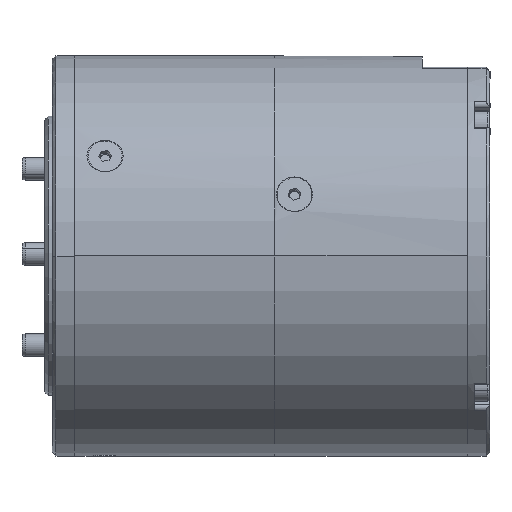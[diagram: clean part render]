
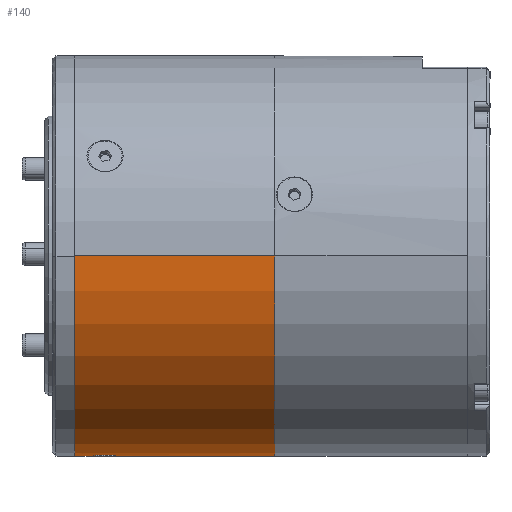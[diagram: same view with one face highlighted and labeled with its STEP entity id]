
A CAD part, front view. The second image highlights one B-rep face of the part: STEP entity #140.
In plain terms, the highlighted cylindrical face has radius 26.5 mm (diameter 53 mm), a partial arc.
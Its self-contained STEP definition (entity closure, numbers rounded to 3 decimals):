
#140 = ADVANCED_FACE ( 'NONE', ( #4600, #30402 ), #25594, .T. ) ;
#522 = EDGE_CURVE ( 'NONE', #60529, #40972, #10632, .T. ) ;
#2503 = ORIENTED_EDGE ( 'NONE', *, *, #46251, .T. ) ;
#2834 = CARTESIAN_POINT ( 'NONE',  ( 20.826, 1.758, -26.442 ) ) ;
#4600 = FACE_BOUND ( 'NONE', #13719, .T. ) ;
#4914 = CARTESIAN_POINT ( 'NONE',  ( 24.104, 1.424, -26.462 ) ) ;
#5244 = CARTESIAN_POINT ( 'NONE',  ( 23.315, 2.097, -26.417 ) ) ;
#5882 = CARTESIAN_POINT ( 'NONE',  ( 44.815, 26.5, 0. ) ) ;
#6338 = DIRECTION ( 'NONE',  ( 0., -1., 0. ) ) ;
#6491 = CARTESIAN_POINT ( 'NONE',  ( 18.315, -26.5, 0. ) ) ;
#6952 = ORIENTED_EDGE ( 'NONE', *, *, #66155, .F. ) ;
#7880 = EDGE_LOOP ( 'NONE', ( #50403, #2503, #6952, #54924 ) ) ;
#8139 = B_SPLINE_CURVE_WITH_KNOTS ( 'NONE', 3,
 ( #18627, #61146, #13783, #65980, #39918, #60125, #2834, #65635, #40605, #39588, #55663, #13457, #55319, #34810, #8608, #24480, #45389, #40262, #14132, #29969, #45736, #43678, #16181, #47131 ),
 .UNSPECIFIED., .F., .F.,
 ( 4, 2, 2, 2, 2, 2, 2, 2, 2, 2, 2, 4 ),
 ( 0.5, 0.563, 0.594, 0.625, 0.656, 0.688, 0.75, 0.813, 0.844, 0.875, 0.938, 1. ),
 .UNSPECIFIED. ) ;
#8438 = CARTESIAN_POINT ( 'NONE',  ( 44.815, -26.5, 0. ) ) ;
#8608 = CARTESIAN_POINT ( 'NONE',  ( 20.122, -0.613, -26.494 ) ) ;
#8658 = CARTESIAN_POINT ( 'NONE',  ( 23.039, -2.215, -26.407 ) ) ;
#10353 = CARTESIAN_POINT ( 'NONE',  ( 24.338, 1.035, -26.48 ) ) ;
#10632 = LINE ( 'NONE', #36842, #43667 ) ;
#10678 = CARTESIAN_POINT ( 'NONE',  ( 24.566, 0.306, -26.5 ) ) ;
#11010 = CARTESIAN_POINT ( 'NONE',  ( 24.282, -1.175, -26.475 ) ) ;
#12016 = CARTESIAN_POINT ( 'NONE',  ( 45.015, 26.5, 0. ) ) ;
#13357 = AXIS2_PLACEMENT_3D ( 'NONE', #53061, #38016, #6338 ) ;
#13457 = CARTESIAN_POINT ( 'NONE',  ( 20.121, 0.609, -26.495 ) ) ;
#13551 = VERTEX_POINT ( 'NONE', #57496 ) ;
#13719 = EDGE_LOOP ( 'NONE', ( #50469, #65101 ) ) ;
#13783 = CARTESIAN_POINT ( 'NONE',  ( 21.724, 2.273, -26.403 ) ) ;
#13830 = CARTESIAN_POINT ( 'NONE',  ( 22.463, -2.334, -26.397 ) ) ;
#14132 = CARTESIAN_POINT ( 'NONE',  ( 20.619, -1.544, -26.455 ) ) ;
#14177 = CARTESIAN_POINT ( 'NONE',  ( 23.698, -1.867, -26.435 ) ) ;
#15319 = VECTOR ( 'NONE', #51061, 1000. ) ;
#15510 = CARTESIAN_POINT ( 'NONE',  ( 24.494, -0.607, -26.493 ) ) ;
#16181 = CARTESIAN_POINT ( 'NONE',  ( 22.019, -2.334, -26.397 ) ) ;
#16194 = CARTESIAN_POINT ( 'NONE',  ( 22.899, 2.259, -26.404 ) ) ;
#18627 = CARTESIAN_POINT ( 'NONE',  ( 22.312, 2.334, -26.397 ) ) ;
#19002 = CARTESIAN_POINT ( 'NONE',  ( 22.899, -2.259, -26.404 ) ) ;
#20392 = DIRECTION ( 'NONE',  ( 1., 0., 0. ) ) ;
#20662 = AXIS2_PLACEMENT_3D ( 'NONE', #26818, #58339, #41947 ) ;
#20681 = B_SPLINE_CURVE_WITH_KNOTS ( 'NONE', 3,
 ( #24531, #13830, #66036, #19002, #8658, #61200, #14177, #50918, #11010, #42342, #15510, #58408, #37550, #10678, #25896, #10353, #62542, #4914, #58064, #20712, #63211, #47801, #5244, #26223, #16194, #67381, #42015, #31070 ),
 .UNSPECIFIED., .F., .F.,
 ( 4, 2, 2, 2, 2, 2, 2, 2, 2, 2, 2, 2, 2, 4 ),
 ( 0., 0.031, 0.063, 0.125, 0.188, 0.219, 0.25, 0.313, 0.344, 0.375, 0.406, 0.438, 0.469, 0.5 ),
 .UNSPECIFIED. ) ;
#20712 = CARTESIAN_POINT ( 'NONE',  ( 23.802, 1.758, -26.442 ) ) ;
#24480 = CARTESIAN_POINT ( 'NONE',  ( 20.292, -1.036, -26.48 ) ) ;
#24531 = CARTESIAN_POINT ( 'NONE',  ( 22.315, -2.334, -26.397 ) ) ;
#24681 = LINE ( 'NONE', #12016, #15319 ) ;
#25594 = CYLINDRICAL_SURFACE ( 'NONE', #31044, 26.5 ) ;
#25896 = CARTESIAN_POINT ( 'NONE',  ( 24.508, 0.61, -26.494 ) ) ;
#26223 = CARTESIAN_POINT ( 'NONE',  ( 23.04, 2.215, -26.407 ) ) ;
#26528 = VERTEX_POINT ( 'NONE', #62432 ) ;
#26818 = CARTESIAN_POINT ( 'NONE',  ( 18.315, 0., 0. ) ) ;
#26833 = DIRECTION ( 'NONE',  ( 1., 0., 0. ) ) ;
#29969 = CARTESIAN_POINT ( 'NONE',  ( 20.932, -1.867, -26.435 ) ) ;
#30402 = FACE_OUTER_BOUND ( 'NONE', #7880, .T. ) ;
#31044 = AXIS2_PLACEMENT_3D ( 'NONE', #46514, #20392, #36249 ) ;
#31070 = CARTESIAN_POINT ( 'NONE',  ( 22.312, 2.334, -26.397 ) ) ;
#32215 = VERTEX_POINT ( 'NONE', #5882 ) ;
#34810 = CARTESIAN_POINT ( 'NONE',  ( 20.063, -0.308, -26.5 ) ) ;
#36249 = DIRECTION ( 'NONE',  ( 0., -1., 0. ) ) ;
#36842 = CARTESIAN_POINT ( 'NONE',  ( 45.015, -26.5, 0. ) ) ;
#37550 = CARTESIAN_POINT ( 'NONE',  ( 24.566, -0.152, -26.5 ) ) ;
#38016 = DIRECTION ( 'NONE',  ( 1., 0., 0. ) ) ;
#39588 = CARTESIAN_POINT ( 'NONE',  ( 20.36, 1.168, -26.475 ) ) ;
#39918 = CARTESIAN_POINT ( 'NONE',  ( 21.184, 2.024, -26.423 ) ) ;
#40262 = CARTESIAN_POINT ( 'NONE',  ( 20.525, -1.425, -26.462 ) ) ;
#40605 = CARTESIAN_POINT ( 'NONE',  ( 20.523, 1.422, -26.462 ) ) ;
#40972 = VERTEX_POINT ( 'NONE', #8438 ) ;
#41947 = DIRECTION ( 'NONE',  ( 0., -1., 0. ) ) ;
#42015 = CARTESIAN_POINT ( 'NONE',  ( 22.458, 2.334, -26.397 ) ) ;
#42342 = CARTESIAN_POINT ( 'NONE',  ( 24.451, -0.752, -26.49 ) ) ;
#43667 = VECTOR ( 'NONE', #26833, 1000. ) ;
#43678 = CARTESIAN_POINT ( 'NONE',  ( 21.727, -2.274, -26.403 ) ) ;
#45389 = CARTESIAN_POINT ( 'NONE',  ( 20.36, -1.169, -26.474 ) ) ;
#45736 = CARTESIAN_POINT ( 'NONE',  ( 21.18, -2.039, -26.422 ) ) ;
#46251 = EDGE_CURVE ( 'NONE', #53897, #32215, #24681, .T. ) ;
#46514 = CARTESIAN_POINT ( 'NONE',  ( 45.015, 0., 0. ) ) ;
#47131 = CARTESIAN_POINT ( 'NONE',  ( 22.315, -2.334, -26.397 ) ) ;
#47801 = CARTESIAN_POINT ( 'NONE',  ( 23.443, 2.025, -26.423 ) ) ;
#50238 = CIRCLE ( 'NONE', #20662, 26.5 ) ;
#50403 = ORIENTED_EDGE ( 'NONE', *, *, #53530, .T. ) ;
#50469 = ORIENTED_EDGE ( 'NONE', *, *, #59726, .T. ) ;
#50618 = CIRCLE ( 'NONE', #13357, 26.5 ) ;
#50918 = CARTESIAN_POINT ( 'NONE',  ( 24.115, -1.434, -26.462 ) ) ;
#51061 = DIRECTION ( 'NONE',  ( 1., 0., 0. ) ) ;
#53061 = CARTESIAN_POINT ( 'NONE',  ( 44.815, 0., 0. ) ) ;
#53530 = EDGE_CURVE ( 'NONE', #60529, #53897, #50238, .T. ) ;
#53897 = VERTEX_POINT ( 'NONE', #55158 ) ;
#54924 = ORIENTED_EDGE ( 'NONE', *, *, #522, .F. ) ;
#55158 = CARTESIAN_POINT ( 'NONE',  ( 18.315, 26.5, 0. ) ) ;
#55319 = CARTESIAN_POINT ( 'NONE',  ( 20.063, 0.305, -26.5 ) ) ;
#55663 = CARTESIAN_POINT ( 'NONE',  ( 20.291, 1.035, -26.48 ) ) ;
#57496 = CARTESIAN_POINT ( 'NONE',  ( 22.312, 2.334, -26.397 ) ) ;
#58064 = CARTESIAN_POINT ( 'NONE',  ( 24.012, 1.541, -26.455 ) ) ;
#58339 = DIRECTION ( 'NONE',  ( 1., 0., 0. ) ) ;
#58408 = CARTESIAN_POINT ( 'NONE',  ( 24.551, -0.306, -26.499 ) ) ;
#59726 = EDGE_CURVE ( 'NONE', #26528, #13551, #20681, .T. ) ;
#60125 = CARTESIAN_POINT ( 'NONE',  ( 20.939, 1.854, -26.435 ) ) ;
#60529 = VERTEX_POINT ( 'NONE', #6491 ) ;
#61146 = CARTESIAN_POINT ( 'NONE',  ( 22.019, 2.334, -26.397 ) ) ;
#61200 = CARTESIAN_POINT ( 'NONE',  ( 23.45, -2.039, -26.422 ) ) ;
#62432 = CARTESIAN_POINT ( 'NONE',  ( 22.315, -2.334, -26.397 ) ) ;
#62542 = CARTESIAN_POINT ( 'NONE',  ( 24.268, 1.17, -26.474 ) ) ;
#63044 = EDGE_CURVE ( 'NONE', #13551, #26528, #8139, .T. ) ;
#63211 = CARTESIAN_POINT ( 'NONE',  ( 23.688, 1.856, -26.435 ) ) ;
#65101 = ORIENTED_EDGE ( 'NONE', *, *, #63044, .T. ) ;
#65635 = CARTESIAN_POINT ( 'NONE',  ( 20.617, 1.541, -26.455 ) ) ;
#65980 = CARTESIAN_POINT ( 'NONE',  ( 21.314, 2.097, -26.417 ) ) ;
#66036 = CARTESIAN_POINT ( 'NONE',  ( 22.611, -2.319, -26.398 ) ) ;
#66155 = EDGE_CURVE ( 'NONE', #40972, #32215, #50618, .T. ) ;
#67381 = CARTESIAN_POINT ( 'NONE',  ( 22.608, 2.319, -26.398 ) ) ;
